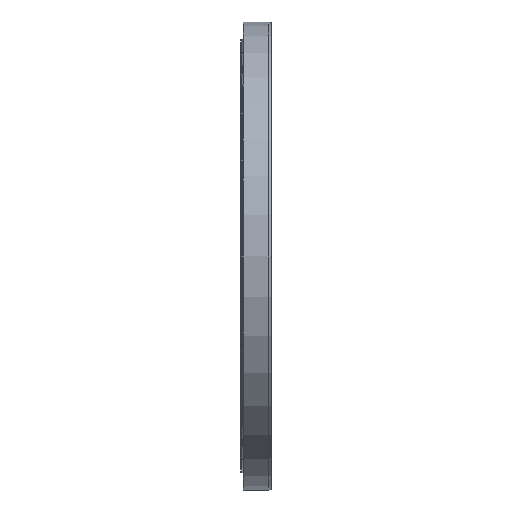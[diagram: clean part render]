
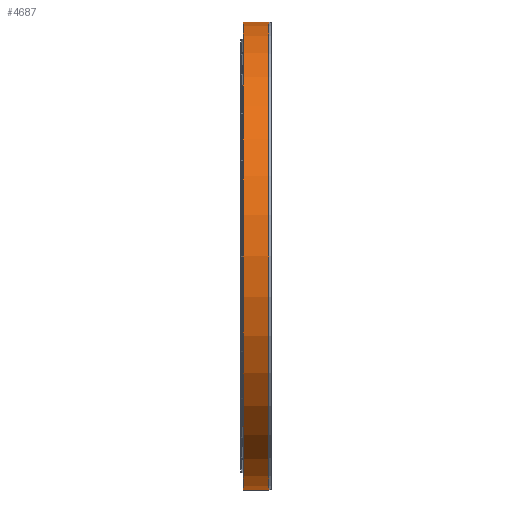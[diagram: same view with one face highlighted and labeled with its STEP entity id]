
A CAD part, left-side view. The second image highlights one B-rep face of the part: STEP entity #4687.
In plain terms, the highlighted cylindrical face has radius 1033 mm (diameter 2066 mm), a partial arc.
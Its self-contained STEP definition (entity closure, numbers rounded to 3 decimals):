
#1194 = CARTESIAN_POINT ( 'NONE',  ( 0., -127.171, 0. ) ) ;
#1744 = CARTESIAN_POINT ( 'NONE',  ( 0., 0., 1033. ) ) ;
#2364 = DIRECTION ( 'NONE',  ( 0., -1., 0. ) ) ;
#3165 = CARTESIAN_POINT ( 'NONE',  ( 0., 0., -1033. ) ) ;
#3444 = ORIENTED_EDGE ( 'NONE', *, *, #31134, .T. ) ;
#4687 = ADVANCED_FACE ( 'NONE', ( #24092 ), #29932, .T. ) ;
#4720 = LINE ( 'NONE', #1744, #17151 ) ;
#5461 = EDGE_CURVE ( 'NONE', #34483, #16554, #4720, .T. ) ;
#5768 = CARTESIAN_POINT ( 'NONE',  ( 0., -13.171, 0. ) ) ;
#6706 = VECTOR ( 'NONE', #15572, 1000. ) ;
#6820 = CARTESIAN_POINT ( 'NONE',  ( 0., -127.171, -1033. ) ) ;
#9838 = DIRECTION ( 'NONE',  ( 0., -1., 0. ) ) ;
#10230 = EDGE_CURVE ( 'NONE', #16554, #14157, #22363, .T. ) ;
#11349 = ORIENTED_EDGE ( 'NONE', *, *, #39550, .T. ) ;
#11455 = VERTEX_POINT ( 'NONE', #35864 ) ;
#14157 = VERTEX_POINT ( 'NONE', #6820 ) ;
#14911 = AXIS2_PLACEMENT_3D ( 'NONE', #5768, #2364, #26636 ) ;
#15572 = DIRECTION ( 'NONE',  ( 0., -1., 0. ) ) ;
#15768 = LINE ( 'NONE', #3165, #6706 ) ;
#16554 = VERTEX_POINT ( 'NONE', #27082 ) ;
#17151 = VECTOR ( 'NONE', #29224, 1000. ) ;
#17465 = CARTESIAN_POINT ( 'NONE',  ( 0., 0., 0. ) ) ;
#17669 = DIRECTION ( 'NONE',  ( 0., -1., 0. ) ) ;
#17976 = AXIS2_PLACEMENT_3D ( 'NONE', #17465, #17669, #30138 ) ;
#22363 = CIRCLE ( 'NONE', #39021, 1033. ) ;
#23885 = CIRCLE ( 'NONE', #14911, 1033. ) ;
#24092 = FACE_OUTER_BOUND ( 'NONE', #38099, .T. ) ;
#26150 = CARTESIAN_POINT ( 'NONE',  ( 0., -13.171, 1033. ) ) ;
#26636 = DIRECTION ( 'NONE',  ( 0., 0., -1. ) ) ;
#27082 = CARTESIAN_POINT ( 'NONE',  ( 0., -127.171, 1033. ) ) ;
#29224 = DIRECTION ( 'NONE',  ( 0., -1., 0. ) ) ;
#29932 = CYLINDRICAL_SURFACE ( 'NONE', #17976, 1033. ) ;
#30138 = DIRECTION ( 'NONE',  ( 0., 0., -1. ) ) ;
#31134 = EDGE_CURVE ( 'NONE', #11455, #14157, #15768, .T. ) ;
#31288 = DIRECTION ( 'NONE',  ( 0., 0., -1. ) ) ;
#34483 = VERTEX_POINT ( 'NONE', #26150 ) ;
#34996 = ORIENTED_EDGE ( 'NONE', *, *, #5461, .F. ) ;
#35864 = CARTESIAN_POINT ( 'NONE',  ( 0., -13.171, -1033. ) ) ;
#38099 = EDGE_LOOP ( 'NONE', ( #34996, #11349, #3444, #38134 ) ) ;
#38134 = ORIENTED_EDGE ( 'NONE', *, *, #10230, .F. ) ;
#39021 = AXIS2_PLACEMENT_3D ( 'NONE', #1194, #9838, #31288 ) ;
#39550 = EDGE_CURVE ( 'NONE', #34483, #11455, #23885, .T. ) ;
